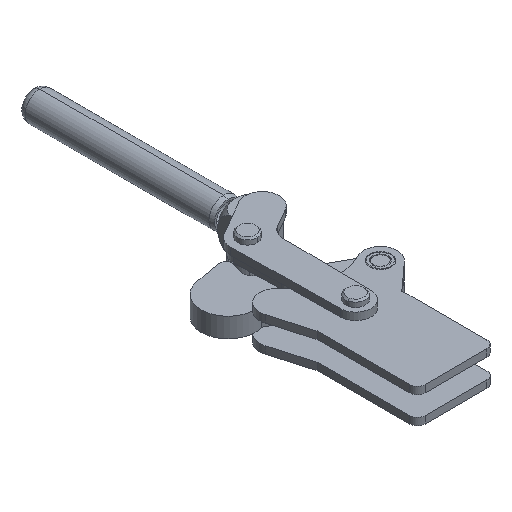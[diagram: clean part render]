
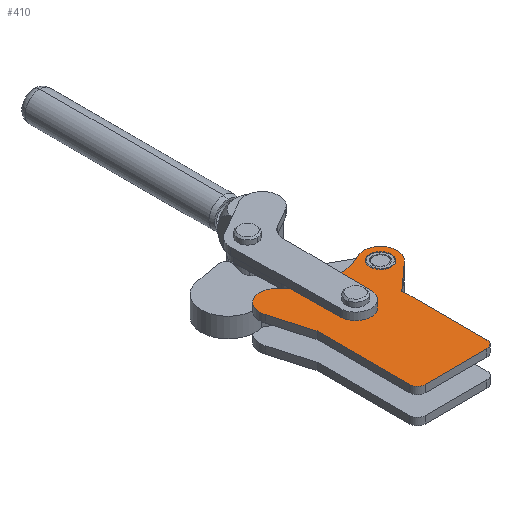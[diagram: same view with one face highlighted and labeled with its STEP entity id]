
A CAD part, isometric view. The second image highlights one B-rep face of the part: STEP entity #410.
In plain terms, the highlighted planar face has unit normal (0, 0, 1).
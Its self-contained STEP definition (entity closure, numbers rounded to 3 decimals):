
#31 = ORIENTED_EDGE ( 'NONE', *, *, #6079, .T. ) ;
#33 = ORIENTED_EDGE ( 'NONE', *, *, #6082, .T. ) ;
#35 = ORIENTED_EDGE ( 'NONE', *, *, #2123, .T. ) ;
#37 = ORIENTED_EDGE ( 'NONE', *, *, #2181, .T. ) ;
#38 = ORIENTED_EDGE ( 'NONE', *, *, #2109, .T. ) ;
#192 = CIRCLE ( 'NONE', #5744, 11. ) ;
#206 = CIRCLE ( 'NONE', #5746, 36.028 ) ;
#226 = LINE ( 'NONE', #3817, #229 ) ;
#229 = VECTOR ( 'NONE', #3818, 1000. ) ;
#254 = CIRCLE ( 'NONE', #5764, 5. ) ;
#282 = LINE ( 'NONE', #3495, #283 ) ;
#283 = VECTOR ( 'NONE', #3504, 1000. ) ;
#301 = LINE ( 'NONE', #3586, #303 ) ;
#303 = VECTOR ( 'NONE', #3614, 1000. ) ;
#410 = ADVANCED_FACE ( 'NONE', ( #2699, #2716, #2714 ), #4690, .T. ) ;
#575 = EDGE_LOOP ( 'NONE', ( #1920, #6014 ) ) ;
#596 = EDGE_LOOP ( 'NONE', ( #6239, #1916 ) ) ;
#707 = EDGE_LOOP ( 'NONE', ( #6017, #5978, #1891, #1950, #1911, #1923, #37, #35, #31, #38, #33 ) ) ;
#799 = AXIS2_PLACEMENT_3D ( 'NONE', #4807, #4709, #4739 ) ;
#882 = AXIS2_PLACEMENT_3D ( 'NONE', #4089, #4086, #4085 ) ;
#892 = AXIS2_PLACEMENT_3D ( 'NONE', #4001, #4000, #3998 ) ;
#893 = AXIS2_PLACEMENT_3D ( 'NONE', #3996, #3995, #3993 ) ;
#894 = AXIS2_PLACEMENT_3D ( 'NONE', #3990, #3989, #3988 ) ;
#896 = AXIS2_PLACEMENT_3D ( 'NONE', #3978, #3977, #3976 ) ;
#897 = AXIS2_PLACEMENT_3D ( 'NONE', #4165, #4293, #4294 ) ;
#988 = CIRCLE ( 'NONE', #5793, 5. ) ;
#1891 = ORIENTED_EDGE ( 'NONE', *, *, #6104, .T. ) ;
#1911 = ORIENTED_EDGE ( 'NONE', *, *, #6153, .T. ) ;
#1916 = ORIENTED_EDGE ( 'NONE', *, *, #2127, .F. ) ;
#1920 = ORIENTED_EDGE ( 'NONE', *, *, #2130, .F. ) ;
#1923 = ORIENTED_EDGE ( 'NONE', *, *, #6197, .T. ) ;
#1950 = ORIENTED_EDGE ( 'NONE', *, *, #6130, .T. ) ;
#2109 = EDGE_CURVE ( 'NONE', #4464, #2400, #2909, .T. ) ;
#2123 = EDGE_CURVE ( 'NONE', #4539, #4520, #2924, .T. ) ;
#2126 = EDGE_CURVE ( 'NONE', #4439, #4540, #2927, .T. ) ;
#2127 = EDGE_CURVE ( 'NONE', #4468, #4555, #2932, .T. ) ;
#2128 = EDGE_CURVE ( 'NONE', #4435, #4533, #2934, .T. ) ;
#2130 = EDGE_CURVE ( 'NONE', #4540, #4439, #2935, .T. ) ;
#2133 = EDGE_CURVE ( 'NONE', #4555, #4468, #2941, .T. ) ;
#2181 = EDGE_CURVE ( 'NONE', #3473, #4539, #3015, .T. ) ;
#2351 = VERTEX_POINT ( 'NONE', #5493 ) ;
#2400 = VERTEX_POINT ( 'NONE', #5667 ) ;
#2699 = FACE_BOUND ( 'NONE', #575, .T. ) ;
#2714 = FACE_OUTER_BOUND ( 'NONE', #707, .T. ) ;
#2716 = FACE_BOUND ( 'NONE', #596, .T. ) ;
#2909 = CIRCLE ( 'NONE', #882, 11. ) ;
#2924 = LINE ( 'NONE', #4022, #2930 ) ;
#2927 = CIRCLE ( 'NONE', #892, 7. ) ;
#2930 = VECTOR ( 'NONE', #4015, 1000. ) ;
#2932 = CIRCLE ( 'NONE', #893, 7. ) ;
#2934 = CIRCLE ( 'NONE', #894, 11. ) ;
#2935 = CIRCLE ( 'NONE', #896, 7. ) ;
#2941 = CIRCLE ( 'NONE', #897, 7. ) ;
#3015 = LINE ( 'NONE', #5644, #3017 ) ;
#3017 = VECTOR ( 'NONE', #5648, 1000. ) ;
#3466 = VERTEX_POINT ( 'NONE', #5384 ) ;
#3473 = VERTEX_POINT ( 'NONE', #5209 ) ;
#3478 = VERTEX_POINT ( 'NONE', #5216 ) ;
#3479 = VERTEX_POINT ( 'NONE', #5219 ) ;
#3495 = CARTESIAN_POINT ( 'NONE',  ( 20., 0., 0. ) ) ;
#3504 = DIRECTION ( 'NONE',  ( 1., 0., 0. ) ) ;
#3586 = CARTESIAN_POINT ( 'NONE',  ( -32.618, 90.96, 0. ) ) ;
#3614 = DIRECTION ( 'NONE',  ( 0.281, -0.96, 0. ) ) ;
#3720 = CARTESIAN_POINT ( 'NONE',  ( 35.142, 84.065, 0. ) ) ;
#3721 = DIRECTION ( 'NONE',  ( 0., 0., 1. ) ) ;
#3722 = DIRECTION ( 'NONE',  ( 1., 0., 0. ) ) ;
#3731 = CARTESIAN_POINT ( 'NONE',  ( 12.904, 125.503, 0. ) ) ;
#3732 = DIRECTION ( 'NONE',  ( 0., 0., -1. ) ) ;
#3733 = DIRECTION ( 'NONE',  ( 1., 0., 0. ) ) ;
#3817 = CARTESIAN_POINT ( 'NONE',  ( -25., 64.968, 0. ) ) ;
#3818 = DIRECTION ( 'NONE',  ( 0., -1., 0. ) ) ;
#3898 = CARTESIAN_POINT ( 'NONE',  ( -20., 5., 0. ) ) ;
#3899 = DIRECTION ( 'NONE',  ( 0., 0., 1. ) ) ;
#3900 = DIRECTION ( 'NONE',  ( 1., 0., 0. ) ) ;
#3976 = DIRECTION ( 'NONE',  ( 1., 0., 0. ) ) ;
#3977 = DIRECTION ( 'NONE',  ( 0., 0., 1. ) ) ;
#3978 = CARTESIAN_POINT ( 'NONE',  ( 35.142, 84.065, 0. ) ) ;
#3988 = DIRECTION ( 'NONE',  ( 1., 0., 0. ) ) ;
#3989 = DIRECTION ( 'NONE',  ( 0., 0., 1. ) ) ;
#3990 = CARTESIAN_POINT ( 'NONE',  ( -22.062, 94.054, 0. ) ) ;
#3993 = DIRECTION ( 'NONE',  ( 1., 0., 0. ) ) ;
#3995 = DIRECTION ( 'NONE',  ( 0., 0., 1. ) ) ;
#3996 = CARTESIAN_POINT ( 'NONE',  ( 0., 64.968, 0. ) ) ;
#3998 = DIRECTION ( 'NONE',  ( 1., 0., 0. ) ) ;
#4000 = DIRECTION ( 'NONE',  ( 0., 0., 1. ) ) ;
#4001 = CARTESIAN_POINT ( 'NONE',  ( 35.142, 84.065, 0. ) ) ;
#4015 = DIRECTION ( 'NONE',  ( 0.74, 0.672, 0. ) ) ;
#4022 = CARTESIAN_POINT ( 'NONE',  ( 25., 60., 0. ) ) ;
#4085 = DIRECTION ( 'NONE',  ( 1., 0., 0. ) ) ;
#4086 = DIRECTION ( 'NONE',  ( 0., 0., 1. ) ) ;
#4089 = CARTESIAN_POINT ( 'NONE',  ( 35.142, 84.065, 0. ) ) ;
#4165 = CARTESIAN_POINT ( 'NONE',  ( 0., 64.968, 0. ) ) ;
#4293 = DIRECTION ( 'NONE',  ( 0., 0., 1. ) ) ;
#4294 = DIRECTION ( 'NONE',  ( 1., 0., 0. ) ) ;
#4435 = VERTEX_POINT ( 'NONE', #5276 ) ;
#4439 = VERTEX_POINT ( 'NONE', #5272 ) ;
#4464 = VERTEX_POINT ( 'NONE', #5252 ) ;
#4468 = VERTEX_POINT ( 'NONE', #5249 ) ;
#4520 = VERTEX_POINT ( 'NONE', #5310 ) ;
#4533 = VERTEX_POINT ( 'NONE', #5325 ) ;
#4539 = VERTEX_POINT ( 'NONE', #5324 ) ;
#4540 = VERTEX_POINT ( 'NONE', #5331 ) ;
#4555 = VERTEX_POINT ( 'NONE', #5421 ) ;
#4690 = PLANE ( 'NONE',  #799 ) ;
#4709 = DIRECTION ( 'NONE',  ( 0., 0., 1. ) ) ;
#4739 = DIRECTION ( 'NONE',  ( 1., 0., 0. ) ) ;
#4807 = CARTESIAN_POINT ( 'NONE',  ( -22.062, 94.054, 0. ) ) ;
#5032 = DIRECTION ( 'NONE',  ( 0., 0., 1. ) ) ;
#5133 = CARTESIAN_POINT ( 'NONE',  ( 20., 5., 0. ) ) ;
#5168 = DIRECTION ( 'NONE',  ( 1., 0., 0. ) ) ;
#5209 = CARTESIAN_POINT ( 'NONE',  ( 25., 5., 0. ) ) ;
#5216 = CARTESIAN_POINT ( 'NONE',  ( 20., 0., 0. ) ) ;
#5219 = CARTESIAN_POINT ( 'NONE',  ( -25., 5., 0. ) ) ;
#5249 = CARTESIAN_POINT ( 'NONE',  ( -7., 64.968, 0. ) ) ;
#5252 = CARTESIAN_POINT ( 'NONE',  ( 46.142, 84.065, 0. ) ) ;
#5272 = CARTESIAN_POINT ( 'NONE',  ( 28.142, 84.065, 0. ) ) ;
#5276 = CARTESIAN_POINT ( 'NONE',  ( -13.883, 101.41, 0. ) ) ;
#5310 = CARTESIAN_POINT ( 'NONE',  ( 42.536, 75.92, 0. ) ) ;
#5324 = CARTESIAN_POINT ( 'NONE',  ( 25., 60., 0. ) ) ;
#5325 = CARTESIAN_POINT ( 'NONE',  ( -32.618, 90.96, 0. ) ) ;
#5331 = CARTESIAN_POINT ( 'NONE',  ( 42.142, 84.065, 0. ) ) ;
#5384 = CARTESIAN_POINT ( 'NONE',  ( -25., 64.968, 0. ) ) ;
#5421 = CARTESIAN_POINT ( 'NONE',  ( 7., 64.968, 0. ) ) ;
#5493 = CARTESIAN_POINT ( 'NONE',  ( -20., 0., 0. ) ) ;
#5644 = CARTESIAN_POINT ( 'NONE',  ( 25., 60., 0. ) ) ;
#5648 = DIRECTION ( 'NONE',  ( 0., 1., 0. ) ) ;
#5667 = CARTESIAN_POINT ( 'NONE',  ( 29.94, 93.757, 0. ) ) ;
#5744 = AXIS2_PLACEMENT_3D ( 'NONE', #3720, #3721, #3722 ) ;
#5746 = AXIS2_PLACEMENT_3D ( 'NONE', #3731, #3732, #3733 ) ;
#5764 = AXIS2_PLACEMENT_3D ( 'NONE', #3898, #3899, #3900 ) ;
#5793 = AXIS2_PLACEMENT_3D ( 'NONE', #5133, #5032, #5168 ) ;
#5978 = ORIENTED_EDGE ( 'NONE', *, *, #6168, .T. ) ;
#6014 = ORIENTED_EDGE ( 'NONE', *, *, #2126, .F. ) ;
#6017 = ORIENTED_EDGE ( 'NONE', *, *, #2128, .T. ) ;
#6079 = EDGE_CURVE ( 'NONE', #4520, #4464, #192, .T. ) ;
#6082 = EDGE_CURVE ( 'NONE', #2400, #4435, #206, .T. ) ;
#6104 = EDGE_CURVE ( 'NONE', #3466, #3479, #226, .T. ) ;
#6130 = EDGE_CURVE ( 'NONE', #3479, #2351, #254, .T. ) ;
#6153 = EDGE_CURVE ( 'NONE', #2351, #3478, #282, .T. ) ;
#6168 = EDGE_CURVE ( 'NONE', #4533, #3466, #301, .T. ) ;
#6197 = EDGE_CURVE ( 'NONE', #3478, #3473, #988, .T. ) ;
#6239 = ORIENTED_EDGE ( 'NONE', *, *, #2133, .F. ) ;
